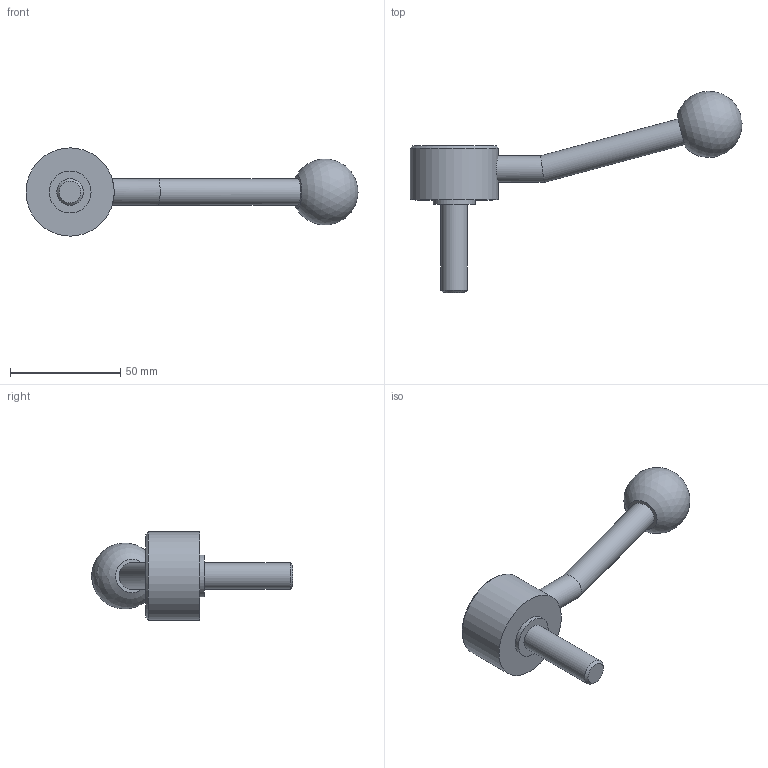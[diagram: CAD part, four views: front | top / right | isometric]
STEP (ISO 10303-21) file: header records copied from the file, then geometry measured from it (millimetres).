
FILE_DESCRIPTION( ( 'STEP AP203' ), '1' );
FILE_NAME( 'C:/Temp/Ganter_Step_05_03_2020/data/2_1/gn_125/gn_125_ms/gn_125_ms_e/Flat Adjustable Lever GN 125-40-M12-40-E.stp', '2020-03-05T11:01:01', ( 'License CC BY-ND 4.0' ), ( 'CADENAS' ), ' ', 'PARTsolutions', ' ' );
FILE_SCHEMA( ( 'CONFIG_CONTROL_DESIGN' ) );
Length unit declared in the file: millimetre
Products named in the file (1): _Flat Adjustable Lever GN 125-40-M12-40-E
Bounding box: 150.51 x 91.23 x 40 mm (x, y, z)
Volume: 59255.2 mm3; surface area: 12958 mm2
Topology: 1 solids, 1 shells, 15 faces, 25 edges, 16 vertices
Faces by surface type: cylinder 6, plane 6, cone 2, sphere 1
Full cylindrical faces by diameter (mm): 12 x3, 19 x1, 28 x1, 40 x1
Entity records: 422 total; most frequent: CARTESIAN_POINT 128, DIRECTION 58, AXIS2_PLACEMENT_3D 29, EDGE_LOOP 28, ORIENTED_EDGE 28, FACE_OUTER_BOUND 21, ADVANCED_FACE 15, VERTEX_POINT 15
